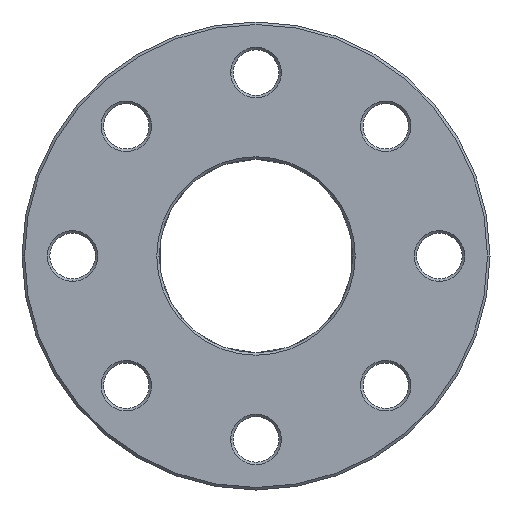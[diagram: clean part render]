
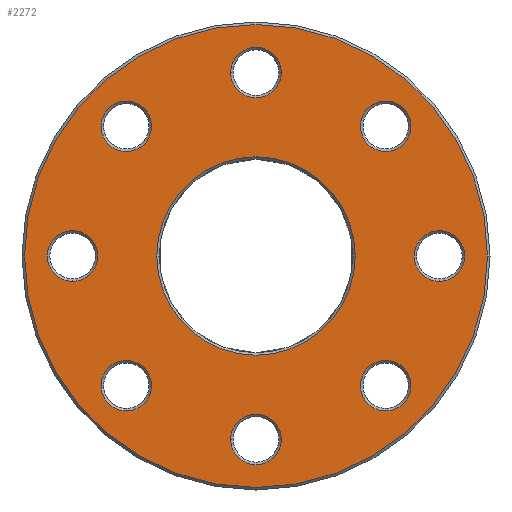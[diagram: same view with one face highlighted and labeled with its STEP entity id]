
A CAD part, front view. The second image highlights one B-rep face of the part: STEP entity #2272.
In plain terms, the highlighted planar face has unit normal (0, -1, 0).
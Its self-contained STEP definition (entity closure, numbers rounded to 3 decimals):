
#646=CARTESIAN_POINT('',(51.265,-2.314,-51.265));
#647=DIRECTION('',(0.,1.,0.));
#648=DIRECTION('',(0.707,0.,0.707));
#649=AXIS2_PLACEMENT_3D('',#646,#647,#648);
#654=CARTESIAN_POINT('',(51.265,-2.314,-51.265));
#655=DIRECTION('',(0.,1.,0.));
#656=DIRECTION('',(-0.707,0.,-0.707));
#657=AXIS2_PLACEMENT_3D('',#654,#655,#656);
#662=CARTESIAN_POINT('',(0.,-2.314,-72.5));
#663=DIRECTION('',(0.,1.,0.));
#664=DIRECTION('',(1.,0.,0.));
#665=AXIS2_PLACEMENT_3D('',#662,#663,#664);
#670=CARTESIAN_POINT('',(0.,-2.314,-72.5));
#671=DIRECTION('',(0.,1.,0.));
#672=DIRECTION('',(-1.,0.,0.));
#673=AXIS2_PLACEMENT_3D('',#670,#671,#672);
#678=CARTESIAN_POINT('',(-51.265,-2.314,-51.265));
#679=DIRECTION('',(0.,1.,0.));
#680=DIRECTION('',(0.707,0.,-0.707));
#681=AXIS2_PLACEMENT_3D('',#678,#679,#680);
#686=CARTESIAN_POINT('',(-51.265,-2.314,-51.265));
#687=DIRECTION('',(0.,1.,0.));
#688=DIRECTION('',(-0.707,0.,0.707));
#689=AXIS2_PLACEMENT_3D('',#686,#687,#688);
#694=CARTESIAN_POINT('',(-72.5,-2.314,0.));
#695=DIRECTION('',(0.,1.,0.));
#696=DIRECTION('',(0.,0.,1.));
#697=AXIS2_PLACEMENT_3D('',#694,#695,#696);
#702=CARTESIAN_POINT('',(-72.5,-2.314,0.));
#703=DIRECTION('',(0.,1.,0.));
#704=DIRECTION('',(0.,0.,-1.));
#705=AXIS2_PLACEMENT_3D('',#702,#703,#704);
#710=CARTESIAN_POINT('',(-51.265,-2.314,51.265));
#711=DIRECTION('',(0.,1.,0.));
#712=DIRECTION('',(0.707,0.,0.707));
#713=AXIS2_PLACEMENT_3D('',#710,#711,#712);
#718=CARTESIAN_POINT('',(-51.265,-2.314,51.265));
#719=DIRECTION('',(0.,1.,0.));
#720=DIRECTION('',(-0.707,0.,-0.707));
#721=AXIS2_PLACEMENT_3D('',#718,#719,#720);
#726=CARTESIAN_POINT('',(0.,-2.314,72.5));
#727=DIRECTION('',(0.,1.,0.));
#728=DIRECTION('',(1.,0.,0.));
#729=AXIS2_PLACEMENT_3D('',#726,#727,#728);
#734=CARTESIAN_POINT('',(0.,-2.314,72.5));
#735=DIRECTION('',(0.,1.,0.));
#736=DIRECTION('',(-1.,0.,0.));
#737=AXIS2_PLACEMENT_3D('',#734,#735,#736);
#742=CARTESIAN_POINT('',(51.265,-2.314,51.265));
#743=DIRECTION('',(0.,1.,0.));
#744=DIRECTION('',(-0.707,0.,0.707));
#745=AXIS2_PLACEMENT_3D('',#742,#743,#744);
#750=CARTESIAN_POINT('',(51.265,-2.314,51.265));
#751=DIRECTION('',(0.,1.,0.));
#752=DIRECTION('',(0.707,0.,-0.707));
#753=AXIS2_PLACEMENT_3D('',#750,#751,#752);
#758=CARTESIAN_POINT('',(72.5,-2.314,0.));
#759=DIRECTION('',(0.,1.,0.));
#760=DIRECTION('',(0.,0.,-1.));
#761=AXIS2_PLACEMENT_3D('',#758,#759,#760);
#766=CARTESIAN_POINT('',(72.5,-2.314,0.));
#767=DIRECTION('',(0.,1.,0.));
#768=DIRECTION('',(0.,0.,1.));
#769=AXIS2_PLACEMENT_3D('',#766,#767,#768);
#774=CARTESIAN_POINT('',(0.,-2.314,0.));
#775=DIRECTION('',(0.,-1.,0.));
#776=DIRECTION('',(1.,0.,0.));
#777=AXIS2_PLACEMENT_3D('',#774,#775,#776);
#782=CARTESIAN_POINT('',(0.,-2.314,0.));
#783=DIRECTION('',(0.,-1.,0.));
#784=DIRECTION('',(-1.,0.,0.));
#785=AXIS2_PLACEMENT_3D('',#782,#783,#784);
#790=CARTESIAN_POINT('',(0.,-2.314,0.));
#791=DIRECTION('',(0.,1.,0.));
#792=DIRECTION('',(1.,0.,0.));
#793=AXIS2_PLACEMENT_3D('',#790,#791,#792);
#798=CARTESIAN_POINT('',(0.,-2.314,0.));
#799=DIRECTION('',(0.,1.,0.));
#800=DIRECTION('',(-1.,0.,0.));
#801=AXIS2_PLACEMENT_3D('',#798,#799,#800);
#1657=CARTESIAN_POINT('',(58.336,-2.314,-44.194));
#1658=CARTESIAN_POINT('',(44.194,-2.314,-58.336));
#1659=VERTEX_POINT('',#1657);
#1660=VERTEX_POINT('',#1658);
#1665=CARTESIAN_POINT('',(10.,-2.314,-72.5));
#1666=CARTESIAN_POINT('',(-10.,-2.314,-72.5));
#1667=VERTEX_POINT('',#1665);
#1668=VERTEX_POINT('',#1666);
#1673=CARTESIAN_POINT('',(-44.194,-2.314,-58.336));
#1674=CARTESIAN_POINT('',(-58.336,-2.314,-44.194));
#1675=VERTEX_POINT('',#1673);
#1676=VERTEX_POINT('',#1674);
#1681=CARTESIAN_POINT('',(-72.5,-2.314,10.));
#1682=CARTESIAN_POINT('',(-72.5,-2.314,-10.));
#1683=VERTEX_POINT('',#1681);
#1684=VERTEX_POINT('',#1682);
#1689=CARTESIAN_POINT('',(-44.194,-2.314,58.336));
#1690=CARTESIAN_POINT('',(-58.336,-2.314,44.194));
#1691=VERTEX_POINT('',#1689);
#1692=VERTEX_POINT('',#1690);
#1697=CARTESIAN_POINT('',(10.,-2.314,72.5));
#1698=CARTESIAN_POINT('',(-10.,-2.314,72.5));
#1699=VERTEX_POINT('',#1697);
#1700=VERTEX_POINT('',#1698);
#1705=CARTESIAN_POINT('',(44.194,-2.314,58.336));
#1706=CARTESIAN_POINT('',(58.336,-2.314,44.194));
#1707=VERTEX_POINT('',#1705);
#1708=VERTEX_POINT('',#1706);
#1713=CARTESIAN_POINT('',(72.5,-2.314,-10.));
#1714=CARTESIAN_POINT('',(72.5,-2.314,10.));
#1715=VERTEX_POINT('',#1713);
#1716=VERTEX_POINT('',#1714);
#1729=CARTESIAN_POINT('',(91.5,-2.314,0.));
#1730=CARTESIAN_POINT('',(-91.5,-2.314,0.));
#1731=VERTEX_POINT('',#1729);
#1732=VERTEX_POINT('',#1730);
#1737=CARTESIAN_POINT('',(39.207,-2.314,0.));
#1738=CARTESIAN_POINT('',(-39.207,-2.314,0.));
#1739=VERTEX_POINT('',#1737);
#1740=VERTEX_POINT('',#1738);
#2208=CARTESIAN_POINT('',(0.,-2.314,0.));
#2209=DIRECTION('',(0.,-1.,0.));
#2210=DIRECTION('',(1.,0.,0.));
#2211=AXIS2_PLACEMENT_3D('',#2208,#2209,#2210);
#2212=PLANE('',#2211);
#2214=ORIENTED_EDGE('',*,*,#2213,.F.);
#2216=ORIENTED_EDGE('',*,*,#2215,.F.);
#2217=EDGE_LOOP('',(#2214,#2216));
#2218=FACE_OUTER_BOUND('',#2217,.F.);
#2220=ORIENTED_EDGE('',*,*,#2219,.F.);
#2222=ORIENTED_EDGE('',*,*,#2221,.F.);
#2223=EDGE_LOOP('',(#2220,#2222));
#2224=FACE_BOUND('',#2223,.F.);
#2226=ORIENTED_EDGE('',*,*,#2225,.F.);
#2228=ORIENTED_EDGE('',*,*,#2227,.F.);
#2229=EDGE_LOOP('',(#2226,#2228));
#2230=FACE_BOUND('',#2229,.F.);
#2232=ORIENTED_EDGE('',*,*,#2231,.F.);
#2234=ORIENTED_EDGE('',*,*,#2233,.F.);
#2235=EDGE_LOOP('',(#2232,#2234));
#2236=FACE_BOUND('',#2235,.F.);
#2238=ORIENTED_EDGE('',*,*,#2237,.F.);
#2240=ORIENTED_EDGE('',*,*,#2239,.F.);
#2241=EDGE_LOOP('',(#2238,#2240));
#2242=FACE_BOUND('',#2241,.F.);
#2244=ORIENTED_EDGE('',*,*,#2243,.F.);
#2246=ORIENTED_EDGE('',*,*,#2245,.F.);
#2247=EDGE_LOOP('',(#2244,#2246));
#2248=FACE_BOUND('',#2247,.F.);
#2250=ORIENTED_EDGE('',*,*,#2249,.F.);
#2252=ORIENTED_EDGE('',*,*,#2251,.F.);
#2253=EDGE_LOOP('',(#2250,#2252));
#2254=FACE_BOUND('',#2253,.F.);
#2256=ORIENTED_EDGE('',*,*,#2255,.F.);
#2258=ORIENTED_EDGE('',*,*,#2257,.F.);
#2259=EDGE_LOOP('',(#2256,#2258));
#2260=FACE_BOUND('',#2259,.F.);
#2262=ORIENTED_EDGE('',*,*,#2261,.F.);
#2264=ORIENTED_EDGE('',*,*,#2263,.F.);
#2265=EDGE_LOOP('',(#2262,#2264));
#2266=FACE_BOUND('',#2265,.F.);
#2268=ORIENTED_EDGE('',*,*,#2267,.F.);
#2269=ORIENTED_EDGE('',*,*,#2198,.F.);
#2270=EDGE_LOOP('',(#2268,#2269));
#2271=FACE_BOUND('',#2270,.F.);
#650=CIRCLE('',#649,10.);
#658=CIRCLE('',#657,10.);
#666=CIRCLE('',#665,10.);
#674=CIRCLE('',#673,10.);
#682=CIRCLE('',#681,10.);
#690=CIRCLE('',#689,10.);
#698=CIRCLE('',#697,10.);
#706=CIRCLE('',#705,10.);
#714=CIRCLE('',#713,10.);
#722=CIRCLE('',#721,10.);
#730=CIRCLE('',#729,10.);
#738=CIRCLE('',#737,10.);
#746=CIRCLE('',#745,10.);
#754=CIRCLE('',#753,10.);
#762=CIRCLE('',#761,10.);
#770=CIRCLE('',#769,10.);
#778=CIRCLE('',#777,91.5);
#786=CIRCLE('',#785,91.5);
#794=CIRCLE('',#793,39.207);
#802=CIRCLE('',#801,39.207);
#2198=EDGE_CURVE('',#1740,#1739,#802,.T.);
#2213=EDGE_CURVE('',#1731,#1732,#778,.T.);
#2215=EDGE_CURVE('',#1732,#1731,#786,.T.);
#2219=EDGE_CURVE('',#1667,#1668,#666,.T.);
#2221=EDGE_CURVE('',#1668,#1667,#674,.T.);
#2225=EDGE_CURVE('',#1675,#1676,#682,.T.);
#2227=EDGE_CURVE('',#1676,#1675,#690,.T.);
#2231=EDGE_CURVE('',#1683,#1684,#698,.T.);
#2233=EDGE_CURVE('',#1684,#1683,#706,.T.);
#2237=EDGE_CURVE('',#1691,#1692,#714,.T.);
#2239=EDGE_CURVE('',#1692,#1691,#722,.T.);
#2243=EDGE_CURVE('',#1699,#1700,#730,.T.);
#2245=EDGE_CURVE('',#1700,#1699,#738,.T.);
#2249=EDGE_CURVE('',#1707,#1708,#746,.T.);
#2251=EDGE_CURVE('',#1708,#1707,#754,.T.);
#2255=EDGE_CURVE('',#1715,#1716,#762,.T.);
#2257=EDGE_CURVE('',#1716,#1715,#770,.T.);
#2261=EDGE_CURVE('',#1659,#1660,#650,.T.);
#2263=EDGE_CURVE('',#1660,#1659,#658,.T.);
#2267=EDGE_CURVE('',#1739,#1740,#794,.T.);
#2272=ADVANCED_FACE('',(#2218,#2224,#2230,#2236,#2242,#2248,#2254,#2260,#2266,
#2271),#2212,.T.);
